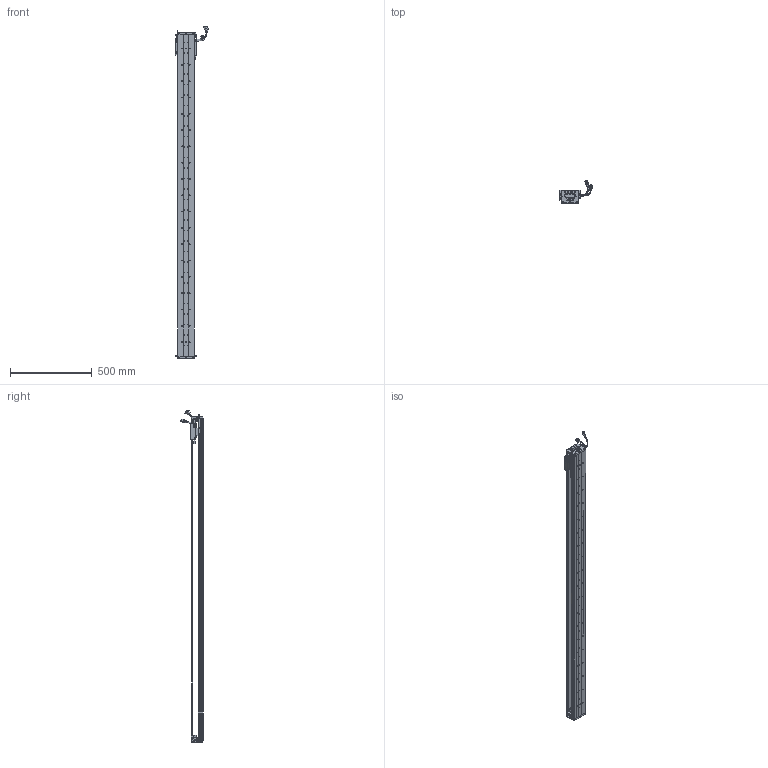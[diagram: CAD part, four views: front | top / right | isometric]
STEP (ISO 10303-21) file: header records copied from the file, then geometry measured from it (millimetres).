
FILE_DESCRIPTION (( 'STEP AP203' ), '1' );
FILE_NAME ('Z1-RY100D-1-L500-B-K.SLDASM_1800.step', '2021-05-17T01:42:35', ( '盈信电脑' ), ( '东莞市道滘镇水果街19号' ), 'SwSTEP 2.0', 'SolidWorks 2016', '' );
FILE_SCHEMA (( 'CONFIG_CONTROL_DESIGN' ));
Length unit declared in the file: millimetre
Products named in the file (36): Z1-RY100D-1-L500-B-K.SLDASM_1800; 140雄赽晤鎢ん堤盄; COVER; HOLDER0; SEAL; HARNESS; PBU_SHEET; HARNESS-Part-1; 140蚥薯蝶輸; HARNESS-Part-2; Z1-RY100-L500詩湍90mm遵_1800; LABEL; Z-RY100D詩湍狟揤裔; SCREW-M1.6-1; SCALE-Part-2; SCALE; Z-100詩湍傷裔啣; Z-RY100D詩湍奻揤裔; SCREW-M1.6-2; 080黍杅芛假蚾釱21遴; SHIELDPLATE; Z-RY100D覜茼んえ; SCALE-Part-1; COVER-Part-1; SCREW-M1.6; PSLH080_PSLF2; SCREW-M1.7-1; 覜茼ん672; SCREW-M1.6-3; 100-Z-臏賑輸盄裔(21遴); SCREW-M1.7; 榋妏寠巭燃_暯_M2_2; Z1-RY100铝滑块（21款）; LABEL-Part-1; SEAL-Part-1; Z1-RY100D-500-倰第菁釱_1800
Assembly tree (44 placements, depth 4):
  Z1-RY100D-1-L500-B-K.SLDASM_1800
    Z1-RY100D-500-倰第菁釱_1800
    Z1-RY100铝滑块（21款）
    PSLH080_PSLF2
      SCALE
        SCALE-Part-1
        SCALE-Part-2
      HARNESS
        HARNESS-Part-1
        HARNESS-Part-2
      LABEL
        LABEL-Part-1
      COVER
        COVER-Part-1
      SEAL
        SEAL-Part-1
      榋妏寠巭燃_暯_M2_2
      SHIELDPLATE
      SCREW-M1.7
      SCREW-M1.7-1
      PBU_SHEET
      SCREW-M1.6
      SCREW-M1.6-1
      SCREW-M1.6-2
      SCREW-M1.6-3
      HOLDER0
    080黍杅芛假蚾釱21遴
    Z-100詩湍傷裔啣  x2
    140蚥薯蝶輸  x2
    覜茼ん672  x4
    Z-RY100D覜茼んえ  x3
    100-Z-臏賑輸盄裔(21遴)
    140雄赽晤鎢ん堤盄
    Z1-RY100-L500詩湍90mm遵_1800
    Z-RY100D詩湍狟揤裔  x2
    Z-RY100D詩湍奻揤裔  x2
Bounding box: 205.84 x 136.11 x 2035.43 mm (x, y, z)
Volume: 3672324.3 mm3; surface area: 1465180.5 mm2
Topology: 39 solids, 39 shells, 2826 faces, 7615 edges, 4860 vertices
Faces by surface type: cylinder 1286, plane 1208, cone 210, torus 69, bspline 53
Entity records: 77283 total; most frequent: CARTESIAN_POINT 16301, DIRECTION 12305, ORIENTED_EDGE 11662, EDGE_CURVE 5831, AXIS2_PLACEMENT_3D 4568, VERTEX_POINT 3768, VECTOR 3169, LINE 3169
